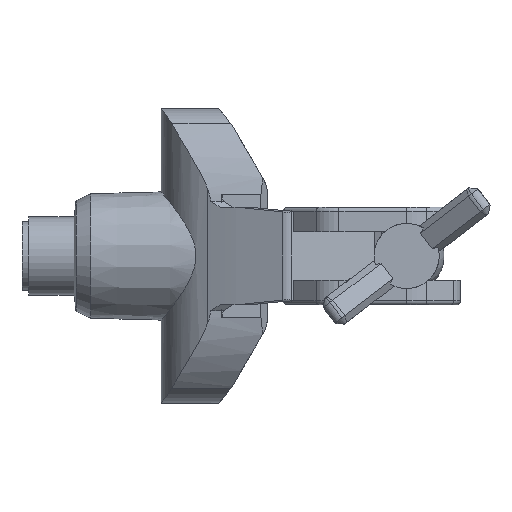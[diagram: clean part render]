
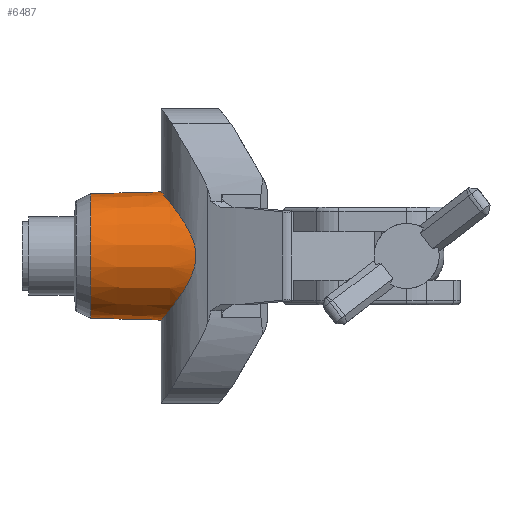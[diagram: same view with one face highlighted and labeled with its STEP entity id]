
A CAD part, left-side view. The second image highlights one B-rep face of the part: STEP entity #6487.
In plain terms, the highlighted conical face has half-angle 1.5 degrees and reference radius 9.988 mm.
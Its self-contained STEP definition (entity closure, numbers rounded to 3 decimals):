
#46 = CARTESIAN_POINT ( 'NONE',  ( -8.1, -24.523, 5.74 ) ) ;
#83 = DIRECTION ( 'NONE',  ( 0., 0., 1. ) ) ;
#86 = CARTESIAN_POINT ( 'NONE',  ( -7.91, -24.354, -5.992 ) ) ;
#89 = ORIENTED_EDGE ( 'NONE', *, *, #2475, .F. ) ;
#117 = CARTESIAN_POINT ( 'NONE',  ( -4.558, -22.29, -8.754 ) ) ;
#155 = LINE ( 'NONE', #6473, #4876 ) ;
#571 = CARTESIAN_POINT ( 'NONE',  ( -9.601, -26.163, 2.692 ) ) ;
#605 = CARTESIAN_POINT ( 'NONE',  ( -9.98, -26.692, 0.176 ) ) ;
#644 = CARTESIAN_POINT ( 'NONE',  ( -9.619, -26.184, -2.693 ) ) ;
#683 = CARTESIAN_POINT ( 'NONE',  ( -5.398, -22.672, -8.274 ) ) ;
#717 = CARTESIAN_POINT ( 'NONE',  ( 0., -10.55, -9.557 ) ) ;
#868 = CARTESIAN_POINT ( 'NONE',  ( 0., -21.399, -9.841 ) ) ;
#1024 = VERTEX_POINT ( 'NONE', #868 ) ;
#1134 = CARTESIAN_POINT ( 'NONE',  ( -9.688, -26.28, 2.373 ) ) ;
#1172 = CARTESIAN_POINT ( 'NONE',  ( -0.694, -21.414, 9.823 ) ) ;
#1207 = CARTESIAN_POINT ( 'NONE',  ( -9.418, -25.919, -3.301 ) ) ;
#1228 = ORIENTED_EDGE ( 'NONE', *, *, #3452, .F. ) ;
#1241 = CARTESIAN_POINT ( 'NONE',  ( -1.723, -21.518, 9.698 ) ) ;
#1308 = DIRECTION ( 'NONE',  ( 0., 1., 0. ) ) ;
#1576 = AXIS2_PLACEMENT_3D ( 'NONE', #1917, #1308, #83 ) ;
#1694 = CARTESIAN_POINT ( 'NONE',  ( -8.916, -25.332, 4.447 ) ) ;
#1734 = CARTESIAN_POINT ( 'NONE',  ( -6.2, -23.099, 7.726 ) ) ;
#1770 = CARTESIAN_POINT ( 'NONE',  ( -9.831, -26.478, -1.714 ) ) ;
#1802 = CARTESIAN_POINT ( 'NONE',  ( -6.655, -23.389, -7.346 ) ) ;
#1806 = CONICAL_SURFACE ( 'NONE', #6054, 9.988, 0.026 ) ;
#1843 = CARTESIAN_POINT ( 'NONE',  ( -1.384, -21.474, 9.751 ) ) ;
#1894 = CARTESIAN_POINT ( 'NONE',  ( 0., -21.399, 9.841 ) ) ;
#1917 = CARTESIAN_POINT ( 'NONE',  ( 0., -10.55, 0. ) ) ;
#2260 = CARTESIAN_POINT ( 'NONE',  ( -4.583, -22.286, 8.76 ) ) ;
#2339 = CARTESIAN_POINT ( 'NONE',  ( -9.961, -26.664, -0.692 ) ) ;
#2410 = CARTESIAN_POINT ( 'NONE',  ( -4.263, -22.174, -8.899 ) ) ;
#2475 = EDGE_CURVE ( 'NONE', #2895, #3181, #155, .T. ) ;
#2564 = EDGE_CURVE ( 'NONE', #4320, #1024, #7269, .T. ) ;
#2740 = ORIENTED_EDGE ( 'NONE', *, *, #7160, .F. ) ;
#2828 = VECTOR ( 'NONE', #5566, 1000. ) ;
#2874 = CARTESIAN_POINT ( 'NONE',  ( -9.289, -25.769, 3.594 ) ) ;
#2895 = VERTEX_POINT ( 'NONE', #5485 ) ;
#2910 = CARTESIAN_POINT ( 'NONE',  ( -9.98, -26.692, -0.347 ) ) ;
#2954 = CARTESIAN_POINT ( 'NONE',  ( -8.093, -24.517, -5.749 ) ) ;
#2987 = CARTESIAN_POINT ( 'NONE',  ( -5.126, -22.539, -8.442 ) ) ;
#3145 = CARTESIAN_POINT ( 'NONE',  ( 0., -27., 0. ) ) ;
#3181 = VERTEX_POINT ( 'NONE', #1894 ) ;
#3448 = CARTESIAN_POINT ( 'NONE',  ( -9.886, -26.555, 1.384 ) ) ;
#3452 = EDGE_CURVE ( 'NONE', #3181, #1024, #4891, .T. ) ;
#3520 = CARTESIAN_POINT ( 'NONE',  ( -8.91, -25.325, -4.46 ) ) ;
#3560 = CARTESIAN_POINT ( 'NONE',  ( -2.388, -21.634, 9.559 ) ) ;
#4006 = CARTESIAN_POINT ( 'NONE',  ( -8.619, -25.013, 4.98 ) ) ;
#4046 = CARTESIAN_POINT ( 'NONE',  ( -9.941, -26.636, 0.872 ) ) ;
#4080 = CARTESIAN_POINT ( 'NONE',  ( 0., -21.399, 9.841 ) ) ;
#4115 = CARTESIAN_POINT ( 'NONE',  ( -7.519, -24.028, -6.462 ) ) ;
#4191 = DIRECTION ( 'NONE',  ( 0., -1., 0.026 ) ) ;
#4320 = VERTEX_POINT ( 'NONE', #717 ) ;
#4538 = EDGE_LOOP ( 'NONE', ( #89, #2740, #4550, #1228 ) ) ;
#4550 = ORIENTED_EDGE ( 'NONE', *, *, #2564, .T. ) ;
#4570 = CARTESIAN_POINT ( 'NONE',  ( -7.527, -24.035, 6.454 ) ) ;
#4653 = CARTESIAN_POINT ( 'NONE',  ( -7.322, -23.874, 6.679 ) ) ;
#4687 = CARTESIAN_POINT ( 'NONE',  ( -9.831, -26.477, 1.718 ) ) ;
#4725 = CARTESIAN_POINT ( 'NONE',  ( -3.356, -21.858, -9.287 ) ) ;
#4766 = CARTESIAN_POINT ( 'NONE',  ( 0., -21.399, -9.841 ) ) ;
#4835 = CARTESIAN_POINT ( 'NONE',  ( -0.688, -21.399, -9.841 ) ) ;
#4876 = VECTOR ( 'NONE', #4191, 1000. ) ;
#4891 = B_SPLINE_CURVE_WITH_KNOTS ( 'NONE', 3,
 ( #4080, #5763, #1172, #1843, #1241, #3560, #5184, #6936, #7466, #2260, #5268, #1734, #6363, #4653, #4570, #5226, #46, #4006, #1694, #2874, #5836, #571, #1134, #4687, #3448, #4046, #5799, #6396, #605, #2910, #2339, #6974, #1770, #644, #1207, #3520, #7007, #2954, #86, #4115, #5873, #1802, #6437, #683, #2987, #117, #2410, #4725, #7046, #6474, #4835, #4766 ),
 .UNSPECIFIED., .F., .F.,
 ( 4, 2, 2, 2, 2, 2, 2, 2, 2, 2, 2, 2, 2, 2, 2, 2, 2, 2, 2, 2, 2, 2, 2, 2, 2, 4 ),
 ( 0.041, 0.042, 0.044, 0.045, 0.046, 0.048, 0.05, 0.051, 0.052, 0.054, 0.055, 0.056, 0.057, 0.057, 0.058, 0.059, 0.06, 0.062, 0.064, 0.065, 0.066, 0.068, 0.069, 0.07, 0.072, 0.074 ),
 .UNSPECIFIED. ) ;
#5184 = CARTESIAN_POINT ( 'NONE',  ( -2.716, -21.705, 9.473 ) ) ;
#5226 = CARTESIAN_POINT ( 'NONE',  ( -7.916, -24.359, 5.985 ) ) ;
#5268 = CARTESIAN_POINT ( 'NONE',  ( -5.147, -22.537, 8.447 ) ) ;
#5485 = CARTESIAN_POINT ( 'NONE',  ( 0., -10.55, 9.557 ) ) ;
#5566 = DIRECTION ( 'NONE',  ( 0., -1., -0.026 ) ) ;
#5763 = CARTESIAN_POINT ( 'NONE',  ( -0.345, -21.399, 9.841 ) ) ;
#5799 = CARTESIAN_POINT ( 'NONE',  ( -9.956, -26.657, 0.7 ) ) ;
#5836 = CARTESIAN_POINT ( 'NONE',  ( -9.402, -25.908, 3.301 ) ) ;
#5873 = CARTESIAN_POINT ( 'NONE',  ( -7.311, -23.866, -6.691 ) ) ;
#6054 = AXIS2_PLACEMENT_3D ( 'NONE', #3145, #6185, #6758 ) ;
#6063 = CIRCLE ( 'NONE', #1576, 9.557 ) ;
#6075 = FACE_OUTER_BOUND ( 'NONE', #4538, .T. ) ;
#6185 = DIRECTION ( 'NONE',  ( 0., -1., 0. ) ) ;
#6363 = CARTESIAN_POINT ( 'NONE',  ( -6.675, -23.402, 7.328 ) ) ;
#6396 = CARTESIAN_POINT ( 'NONE',  ( -9.975, -26.685, 0.352 ) ) ;
#6437 = CARTESIAN_POINT ( 'NONE',  ( -6.179, -23.087, -7.742 ) ) ;
#6473 = CARTESIAN_POINT ( 'NONE',  ( 0., -27., 9.988 ) ) ;
#6474 = CARTESIAN_POINT ( 'NONE',  ( -1.372, -21.458, -9.771 ) ) ;
#6487 = ADVANCED_FACE ( 'CONE_0', ( #6075 ), #1806, .T. ) ;
#6758 = DIRECTION ( 'NONE',  ( 0., 0., -1. ) ) ;
#6936 = CARTESIAN_POINT ( 'NONE',  ( -3.358, -21.872, 9.27 ) ) ;
#6974 = CARTESIAN_POINT ( 'NONE',  ( -9.887, -26.557, -1.374 ) ) ;
#7007 = CARTESIAN_POINT ( 'NONE',  ( -8.61, -25.004, -4.995 ) ) ;
#7046 = CARTESIAN_POINT ( 'NONE',  ( -2.719, -21.69, -9.491 ) ) ;
#7160 = EDGE_CURVE ( 'NONE', #4320, #2895, #6063, .T. ) ;
#7269 = LINE ( 'NONE', #7309, #2828 ) ;
#7309 = CARTESIAN_POINT ( 'NONE',  ( 0., -27., -9.988 ) ) ;
#7466 = CARTESIAN_POINT ( 'NONE',  ( -3.674, -21.968, 9.152 ) ) ;
